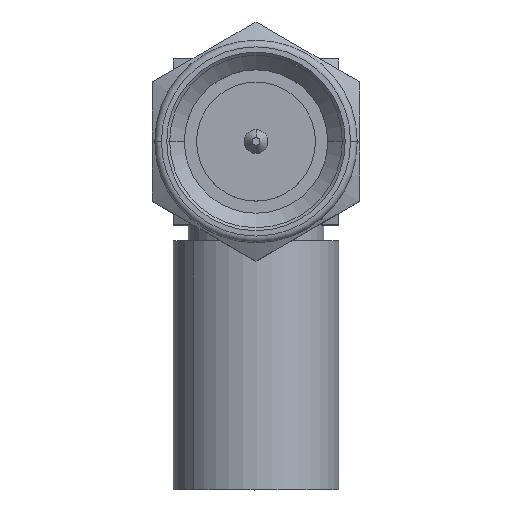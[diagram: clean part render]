
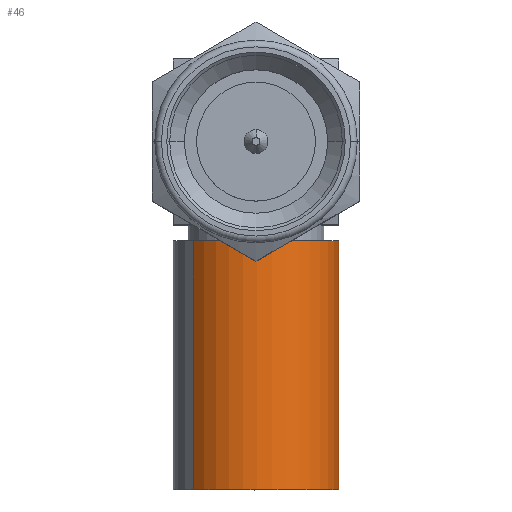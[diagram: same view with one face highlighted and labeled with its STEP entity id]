
A CAD part, top view. The second image highlights one B-rep face of the part: STEP entity #46.
In plain terms, the highlighted cylindrical face has radius 3.175 mm (diameter 6.35 mm), a partial arc.
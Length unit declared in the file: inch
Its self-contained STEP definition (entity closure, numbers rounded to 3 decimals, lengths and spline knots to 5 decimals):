
#43 = VERTEX_POINT ( 'NONE', #2284 ) ;
#46 = ADVANCED_FACE ( 'NONE', ( #2406 ), #1109, .T. ) ;
#459 = EDGE_CURVE ( 'NONE', #1454, #3603, #1832, .T. ) ;
#638 = CARTESIAN_POINT ( 'NONE',  ( 0., -0.524, -0.425 ) ) ;
#813 = CARTESIAN_POINT ( 'NONE',  ( 0.09458, -0.524, -0.50673 ) ) ;
#961 = DIRECTION ( 'NONE',  ( 0.757, 0., -0.654 ) ) ;
#1109 = CYLINDRICAL_SURFACE ( 'NONE', #1536, 0.125 ) ;
#1277 = EDGE_LOOP ( 'NONE', ( #4034, #3629, #2805, #1875 ) ) ;
#1357 = CIRCLE ( 'NONE', #4267, 0.125 ) ;
#1408 = CARTESIAN_POINT ( 'NONE',  ( 0., -0.149, -0.425 ) ) ;
#1454 = VERTEX_POINT ( 'NONE', #1798 ) ;
#1472 = VERTEX_POINT ( 'NONE', #2479 ) ;
#1536 = AXIS2_PLACEMENT_3D ( 'NONE', #2172, #1809, #3543 ) ;
#1702 = LINE ( 'NONE', #4015, #4274 ) ;
#1733 = DIRECTION ( 'NONE',  ( 0.757, 0., -0.654 ) ) ;
#1798 = CARTESIAN_POINT ( 'NONE',  ( 0.09458, -0.149, -0.50673 ) ) ;
#1809 = DIRECTION ( 'NONE',  ( 0., -1., 0. ) ) ;
#1832 = LINE ( 'NONE', #813, #2707 ) ;
#1875 = ORIENTED_EDGE ( 'NONE', *, *, #459, .F. ) ;
#1964 = EDGE_CURVE ( 'NONE', #3603, #1472, #3844, .T. ) ;
#2008 = DIRECTION ( 'NONE',  ( 0., -1., 0. ) ) ;
#2039 = EDGE_CURVE ( 'NONE', #43, #1472, #1702, .T. ) ;
#2172 = CARTESIAN_POINT ( 'NONE',  ( 0., -0.524, -0.425 ) ) ;
#2284 = CARTESIAN_POINT ( 'NONE',  ( -0.09458, -0.149, -0.34327 ) ) ;
#2406 = FACE_OUTER_BOUND ( 'NONE', #1277, .T. ) ;
#2479 = CARTESIAN_POINT ( 'NONE',  ( -0.09458, -0.524, -0.34327 ) ) ;
#2707 = VECTOR ( 'NONE', #3806, 39.37008 ) ;
#2805 = ORIENTED_EDGE ( 'NONE', *, *, #1964, .F. ) ;
#2867 = CARTESIAN_POINT ( 'NONE',  ( 0.09458, -0.524, -0.50673 ) ) ;
#2950 = DIRECTION ( 'NONE',  ( 0., -1., 0. ) ) ;
#3117 = EDGE_CURVE ( 'NONE', #1454, #43, #1357, .T. ) ;
#3528 = AXIS2_PLACEMENT_3D ( 'NONE', #638, #2950, #961 ) ;
#3543 = DIRECTION ( 'NONE',  ( 0.757, 0., -0.654 ) ) ;
#3603 = VERTEX_POINT ( 'NONE', #2867 ) ;
#3629 = ORIENTED_EDGE ( 'NONE', *, *, #2039, .T. ) ;
#3744 = DIRECTION ( 'NONE',  ( 0., -1., 0. ) ) ;
#3806 = DIRECTION ( 'NONE',  ( 0., -1., 0. ) ) ;
#3844 = CIRCLE ( 'NONE', #3528, 0.125 ) ;
#4015 = CARTESIAN_POINT ( 'NONE',  ( -0.09458, -0.524, -0.34327 ) ) ;
#4034 = ORIENTED_EDGE ( 'NONE', *, *, #3117, .T. ) ;
#4267 = AXIS2_PLACEMENT_3D ( 'NONE', #1408, #3744, #1733 ) ;
#4274 = VECTOR ( 'NONE', #2008, 39.37008 ) ;
